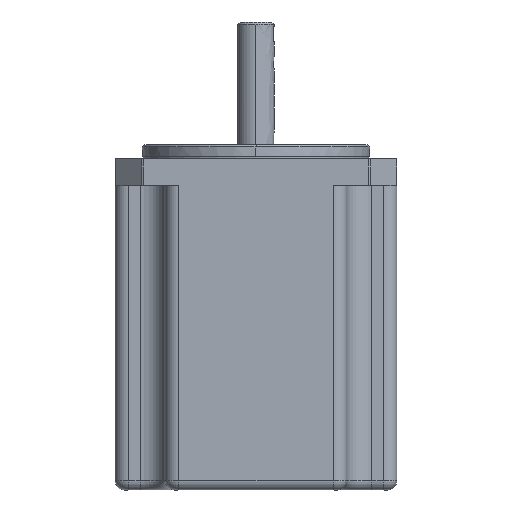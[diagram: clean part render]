
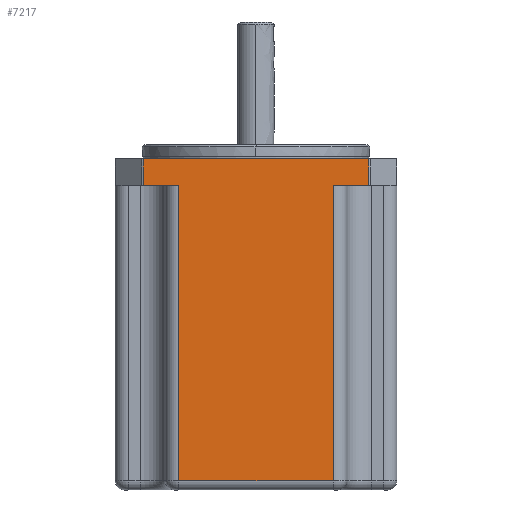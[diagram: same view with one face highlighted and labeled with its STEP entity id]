
A CAD part, front view. The second image highlights one B-rep face of the part: STEP entity #7217.
In plain terms, the highlighted planar face has unit normal (0, -1, 0).
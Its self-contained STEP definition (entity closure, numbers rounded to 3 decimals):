
#34 = ORIENTED_EDGE ( 'NONE', *, *, #11987, .F. ) ;
#263 = DIRECTION ( 'NONE',  ( 0., 0., -1. ) ) ;
#281 = ORIENTED_EDGE ( 'NONE', *, *, #25984, .F. ) ;
#783 = FACE_OUTER_BOUND ( 'NONE', #14896, .T. ) ;
#1345 = LINE ( 'NONE', #21673, #7454 ) ;
#1500 = AXIS2_PLACEMENT_3D ( 'NONE', #25850, #7381, #23610 ) ;
#1870 = VECTOR ( 'NONE', #6534, 1000. ) ;
#2094 = DIRECTION ( 'NONE',  ( 0., 0., 1. ) ) ;
#2268 = LINE ( 'NONE', #13628, #24723 ) ;
#2553 = VERTEX_POINT ( 'NONE', #26935 ) ;
#5590 = CARTESIAN_POINT ( 'NONE',  ( -24.793, -31., -6. ) ) ;
#5806 = CARTESIAN_POINT ( 'NONE',  ( 24.793, -31., -0.1 ) ) ;
#6001 = ORIENTED_EDGE ( 'NONE', *, *, #20138, .F. ) ;
#6262 = VERTEX_POINT ( 'NONE', #15339 ) ;
#6364 = ORIENTED_EDGE ( 'NONE', *, *, #19095, .F. ) ;
#6436 = VECTOR ( 'NONE', #22997, 1000. ) ;
#6488 = VERTEX_POINT ( 'NONE', #27228 ) ;
#6534 = DIRECTION ( 'NONE',  ( -1., 0., 0. ) ) ;
#7217 = ADVANCED_FACE ( 'NONE', ( #783 ), #21301, .F. ) ;
#7243 = LINE ( 'NONE', #18111, #1870 ) ;
#7381 = DIRECTION ( 'NONE',  ( 0., 1., 0. ) ) ;
#7454 = VECTOR ( 'NONE', #10104, 1000. ) ;
#7938 = EDGE_CURVE ( 'NONE', #11273, #28225, #17787, .T. ) ;
#8253 = VERTEX_POINT ( 'NONE', #15430 ) ;
#8906 = DIRECTION ( 'NONE',  ( -1., 0., 0. ) ) ;
#9084 = CARTESIAN_POINT ( 'NONE',  ( -29.751, -31., -0.1 ) ) ;
#9179 = ORIENTED_EDGE ( 'NONE', *, *, #18097, .F. ) ;
#9822 = LINE ( 'NONE', #15820, #28342 ) ;
#10104 = DIRECTION ( 'NONE',  ( -1., 0., 0. ) ) ;
#10849 = DIRECTION ( 'NONE',  ( 0., 0., -1. ) ) ;
#10950 = ORIENTED_EDGE ( 'NONE', *, *, #13562, .F. ) ;
#11273 = VERTEX_POINT ( 'NONE', #5590 ) ;
#11608 = VECTOR ( 'NONE', #20933, 1000. ) ;
#11859 = LINE ( 'NONE', #9084, #6436 ) ;
#11987 = EDGE_CURVE ( 'NONE', #6262, #11273, #9822, .T. ) ;
#12410 = EDGE_CURVE ( 'NONE', #15182, #8253, #21813, .T. ) ;
#13562 = EDGE_CURVE ( 'NONE', #2553, #15182, #7243, .T. ) ;
#13628 = CARTESIAN_POINT ( 'NONE',  ( -17., -31., 6.99 ) ) ;
#13965 = LINE ( 'NONE', #27082, #14692 ) ;
#14692 = VECTOR ( 'NONE', #10849, 1000. ) ;
#14896 = EDGE_LOOP ( 'NONE', ( #6364, #25351, #10950, #6001, #9179, #17984, #34, #281 ) ) ;
#15182 = VERTEX_POINT ( 'NONE', #28596 ) ;
#15339 = CARTESIAN_POINT ( 'NONE',  ( -17., -31., -6. ) ) ;
#15430 = CARTESIAN_POINT ( 'NONE',  ( 17., -31., -71. ) ) ;
#15820 = CARTESIAN_POINT ( 'NONE',  ( -29.751, -31., -6. ) ) ;
#17787 = LINE ( 'NONE', #23160, #11608 ) ;
#17984 = ORIENTED_EDGE ( 'NONE', *, *, #7938, .F. ) ;
#18097 = EDGE_CURVE ( 'NONE', #28225, #19736, #11859, .T. ) ;
#18111 = CARTESIAN_POINT ( 'NONE',  ( -29.751, -31., -6. ) ) ;
#18461 = CARTESIAN_POINT ( 'NONE',  ( -24.793, -31., -0.1 ) ) ;
#19095 = EDGE_CURVE ( 'NONE', #8253, #6488, #1345, .T. ) ;
#19736 = VERTEX_POINT ( 'NONE', #5806 ) ;
#20138 = EDGE_CURVE ( 'NONE', #19736, #2553, #13965, .T. ) ;
#20380 = VECTOR ( 'NONE', #263, 1000. ) ;
#20933 = DIRECTION ( 'NONE',  ( 0., 0., 1. ) ) ;
#21301 = PLANE ( 'NONE',  #1500 ) ;
#21673 = CARTESIAN_POINT ( 'NONE',  ( 17., -31., -71. ) ) ;
#21813 = LINE ( 'NONE', #28006, #20380 ) ;
#22997 = DIRECTION ( 'NONE',  ( 1., 0., 0. ) ) ;
#23160 = CARTESIAN_POINT ( 'NONE',  ( -24.793, -31., 6.99 ) ) ;
#23610 = DIRECTION ( 'NONE',  ( -1., 0., 0. ) ) ;
#24723 = VECTOR ( 'NONE', #2094, 1000. ) ;
#25351 = ORIENTED_EDGE ( 'NONE', *, *, #12410, .F. ) ;
#25850 = CARTESIAN_POINT ( 'NONE',  ( -29.751, -31., 6.99 ) ) ;
#25984 = EDGE_CURVE ( 'NONE', #6488, #6262, #2268, .T. ) ;
#26935 = CARTESIAN_POINT ( 'NONE',  ( 24.793, -31., -6. ) ) ;
#27082 = CARTESIAN_POINT ( 'NONE',  ( 24.793, -31., 6.99 ) ) ;
#27228 = CARTESIAN_POINT ( 'NONE',  ( -17., -31., -71. ) ) ;
#28006 = CARTESIAN_POINT ( 'NONE',  ( 17., -31., 6.99 ) ) ;
#28225 = VERTEX_POINT ( 'NONE', #18461 ) ;
#28342 = VECTOR ( 'NONE', #8906, 1000. ) ;
#28596 = CARTESIAN_POINT ( 'NONE',  ( 17., -31., -6. ) ) ;
